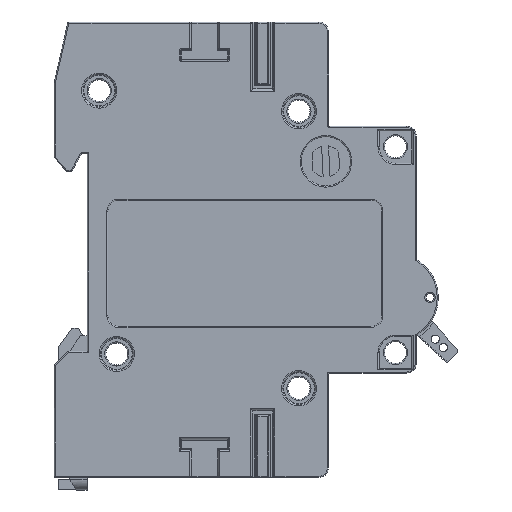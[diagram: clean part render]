
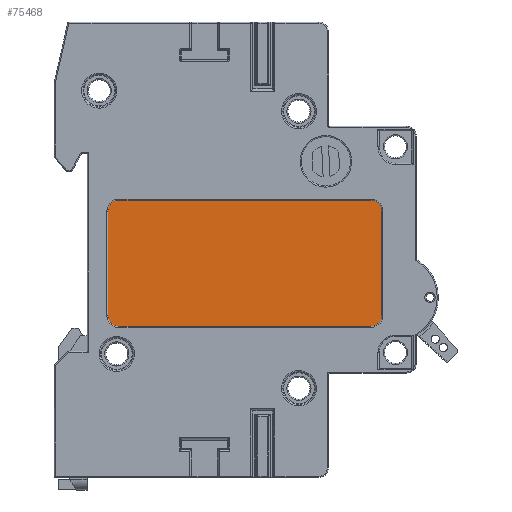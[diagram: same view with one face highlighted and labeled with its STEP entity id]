
A CAD part, front view. The second image highlights one B-rep face of the part: STEP entity #75468.
In plain terms, the highlighted planar face has unit normal (0, -1, 0).
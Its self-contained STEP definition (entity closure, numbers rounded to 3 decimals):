
#2008 = LINE ( 'NONE', #75437, #51285 ) ;
#3276 = CARTESIAN_POINT ( 'NONE',  ( 57.7, 0., 50.3 ) ) ;
#4520 = EDGE_CURVE ( 'NONE', #21452, #31113, #2008, .T. ) ;
#4924 = AXIS2_PLACEMENT_3D ( 'NONE', #53178, #28061, #72144 ) ;
#5243 = DIRECTION ( 'NONE',  ( 0., 0., 1. ) ) ;
#6095 = AXIS2_PLACEMENT_3D ( 'NONE', #18949, #61844, #6993 ) ;
#6993 = DIRECTION ( 'NONE',  ( 0., 0., -1. ) ) ;
#8996 = DIRECTION ( 'NONE',  ( 0., 0., -1. ) ) ;
#10538 = LINE ( 'NONE', #47233, #58745 ) ;
#13173 = ORIENTED_EDGE ( 'NONE', *, *, #81153, .T. ) ;
#13298 = CIRCLE ( 'NONE', #48837, 2. ) ;
#14279 = VERTEX_POINT ( 'NONE', #22625 ) ;
#15707 = ORIENTED_EDGE ( 'NONE', *, *, #4520, .T. ) ;
#16432 = CARTESIAN_POINT ( 'NONE',  ( 9.8, 0., 48.3 ) ) ;
#18949 = CARTESIAN_POINT ( 'NONE',  ( 11.8, 0., 48.3 ) ) ;
#19950 = ORIENTED_EDGE ( 'NONE', *, *, #54724, .T. ) ;
#20106 = EDGE_CURVE ( 'NONE', #70049, #21452, #41615, .T. ) ;
#20191 = CARTESIAN_POINT ( 'NONE',  ( 11.8, 0., 27.3 ) ) ;
#20726 = VERTEX_POINT ( 'NONE', #28306 ) ;
#21452 = VERTEX_POINT ( 'NONE', #16432 ) ;
#21933 = DIRECTION ( 'NONE',  ( 0., -1., 0. ) ) ;
#22625 = CARTESIAN_POINT ( 'NONE',  ( 59.7, 0., 48.3 ) ) ;
#23062 = LINE ( 'NONE', #3276, #23935 ) ;
#23935 = VECTOR ( 'NONE', #30049, 1000. ) ;
#25900 = ORIENTED_EDGE ( 'NONE', *, *, #35658, .T. ) ;
#26232 = VERTEX_POINT ( 'NONE', #54730 ) ;
#28061 = DIRECTION ( 'NONE',  ( 0., -1., 0. ) ) ;
#28306 = CARTESIAN_POINT ( 'NONE',  ( 59.7, 0., 29.3 ) ) ;
#28577 = CARTESIAN_POINT ( 'NONE',  ( 9.8, 0., 29.3 ) ) ;
#28773 = CIRCLE ( 'NONE', #39254, 2. ) ;
#30049 = DIRECTION ( 'NONE',  ( -1., 0., 0. ) ) ;
#30109 = ORIENTED_EDGE ( 'NONE', *, *, #67745, .T. ) ;
#31113 = VERTEX_POINT ( 'NONE', #28577 ) ;
#31808 = AXIS2_PLACEMENT_3D ( 'NONE', #78027, #21933, #46254 ) ;
#33882 = CIRCLE ( 'NONE', #4924, 2. ) ;
#35221 = DIRECTION ( 'NONE',  ( 0., -1., 0. ) ) ;
#35484 = ORIENTED_EDGE ( 'NONE', *, *, #35612, .T. ) ;
#35612 = EDGE_CURVE ( 'NONE', #20726, #14279, #64666, .T. ) ;
#35658 = EDGE_CURVE ( 'NONE', #66467, #26232, #10538, .T. ) ;
#36147 = CARTESIAN_POINT ( 'NONE',  ( 59.7, 0., 48.3 ) ) ;
#37766 = DIRECTION ( 'NONE',  ( 0., -1., 0. ) ) ;
#39254 = AXIS2_PLACEMENT_3D ( 'NONE', #61581, #35221, #54994 ) ;
#39725 = CARTESIAN_POINT ( 'NONE',  ( 57.7, 0., 50.3 ) ) ;
#41615 = CIRCLE ( 'NONE', #6095, 2. ) ;
#46254 = DIRECTION ( 'NONE',  ( -1., 0., 0. ) ) ;
#47233 = CARTESIAN_POINT ( 'NONE',  ( 57.7, 0., 27.3 ) ) ;
#48837 = AXIS2_PLACEMENT_3D ( 'NONE', #68721, #37766, #62929 ) ;
#48865 = ORIENTED_EDGE ( 'NONE', *, *, #75846, .T. ) ;
#51285 = VECTOR ( 'NONE', #8996, 1000. ) ;
#53178 = CARTESIAN_POINT ( 'NONE',  ( 57.7, 0., 48.3 ) ) ;
#54397 = CARTESIAN_POINT ( 'NONE',  ( 11.8, 0., 50.3 ) ) ;
#54724 = EDGE_CURVE ( 'NONE', #26232, #20726, #28773, .T. ) ;
#54730 = CARTESIAN_POINT ( 'NONE',  ( 57.7, 0., 27.3 ) ) ;
#54994 = DIRECTION ( 'NONE',  ( 0., 0., 1. ) ) ;
#58745 = VECTOR ( 'NONE', #65798, 1000. ) ;
#60133 = ORIENTED_EDGE ( 'NONE', *, *, #20106, .T. ) ;
#61581 = CARTESIAN_POINT ( 'NONE',  ( 57.7, 0., 29.3 ) ) ;
#61844 = DIRECTION ( 'NONE',  ( 0., -1., 0. ) ) ;
#62929 = DIRECTION ( 'NONE',  ( 0., 0., -1. ) ) ;
#64666 = LINE ( 'NONE', #36147, #81174 ) ;
#65798 = DIRECTION ( 'NONE',  ( 1., 0., 0. ) ) ;
#66132 = VERTEX_POINT ( 'NONE', #39725 ) ;
#66467 = VERTEX_POINT ( 'NONE', #20191 ) ;
#66534 = EDGE_LOOP ( 'NONE', ( #19950, #35484, #30109, #48865, #60133, #15707, #13173, #25900 ) ) ;
#67745 = EDGE_CURVE ( 'NONE', #14279, #66132, #33882, .T. ) ;
#68721 = CARTESIAN_POINT ( 'NONE',  ( 11.8, 0., 29.3 ) ) ;
#70049 = VERTEX_POINT ( 'NONE', #54397 ) ;
#72144 = DIRECTION ( 'NONE',  ( 0., 0., -1. ) ) ;
#75437 = CARTESIAN_POINT ( 'NONE',  ( 9.8, 0., 48.3 ) ) ;
#75468 = ADVANCED_FACE ( 'NONE', ( #76393 ), #77620, .T. ) ;
#75846 = EDGE_CURVE ( 'NONE', #66132, #70049, #23062, .T. ) ;
#76393 = FACE_OUTER_BOUND ( 'NONE', #66534, .T. ) ;
#77620 = PLANE ( 'NONE',  #31808 ) ;
#78027 = CARTESIAN_POINT ( 'NONE',  ( 11.8, 0., 29.3 ) ) ;
#81153 = EDGE_CURVE ( 'NONE', #31113, #66467, #13298, .T. ) ;
#81174 = VECTOR ( 'NONE', #5243, 1000. ) ;
